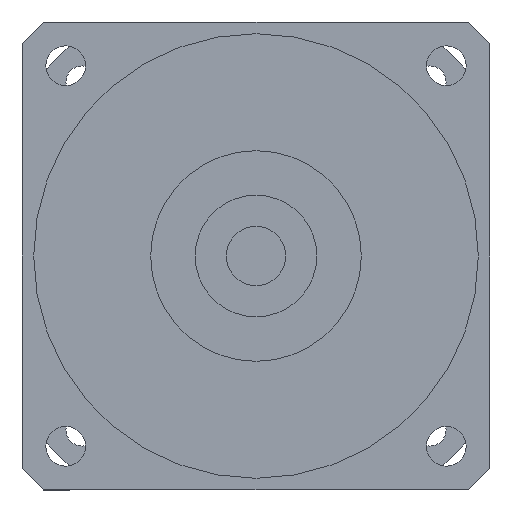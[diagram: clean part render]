
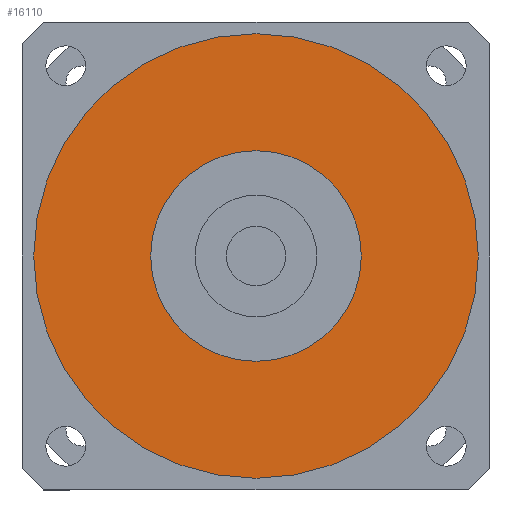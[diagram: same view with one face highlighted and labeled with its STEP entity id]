
A CAD part, left-side view. The second image highlights one B-rep face of the part: STEP entity #16110.
In plain terms, the highlighted planar face has unit normal (-1, 0, 0) as drawn and (0, 0, -1) by its records, which use the part's own axes.
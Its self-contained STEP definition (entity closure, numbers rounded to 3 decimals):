
#15680=CARTESIAN_POINT('',(0.,0.,
-113.5));
#15690=DIRECTION('',(0.,0.,1.));
#15700=DIRECTION('',(-1.,0.,0.));
#15710=AXIS2_PLACEMENT_3D('',#15680,#15690,#15700);
#15720=PLANE('',#15710);
#15730=CARTESIAN_POINT('',(0.,0.,
-113.5));
#15740=DIRECTION('',(0.,0.,1.));
#15750=DIRECTION('',(0.,-1.,0.));
#15760=AXIS2_PLACEMENT_3D('',#15730,#15740,#15750);
#15770=CIRCLE('',#15760,47.5);
#15780=CARTESIAN_POINT('',(0.,-47.5,-113.5));
#15790=VERTEX_POINT('',#15780);
#15800=CARTESIAN_POINT('',(47.5,0.,-113.5));
#15810=VERTEX_POINT('',#15800);
#15820=EDGE_CURVE('',#15790,#15810,#15770,.T.);
#15830=ORIENTED_EDGE('',*,*,#15820,.F.);
#15840=CARTESIAN_POINT('',(-47.5,0.,-113.5));
#15850=VERTEX_POINT('',#15840);
#15860=EDGE_CURVE('',#15810,#15850,#15770,.T.);
#15870=ORIENTED_EDGE('',*,*,#15860,.F.);
#15880=EDGE_CURVE('',#15850,#15790,#15770,.T.);
#15890=ORIENTED_EDGE('',*,*,#15880,.F.);
#15900=EDGE_LOOP('',(#15890,#15870,#15830));
#15910=FACE_OUTER_BOUND('',#15900,.T.);
#15920=CARTESIAN_POINT('',(0.,0.,
-113.5));
#15930=DIRECTION('',(0.,0.,1.));
#15940=DIRECTION('',(0.,-1.,0.));
#15950=AXIS2_PLACEMENT_3D('',#15920,#15930,#15940);
#15960=CIRCLE('',#15950,22.5);
#15970=CARTESIAN_POINT('',(22.5,0.,-113.5));
#15980=VERTEX_POINT('',#15970);
#15990=CARTESIAN_POINT('',(-22.5,0.,-113.5));
#16000=VERTEX_POINT('',#15990);
#16010=EDGE_CURVE('',#15980,#16000,#15960,.T.);
#16020=ORIENTED_EDGE('',*,*,#16010,.T.);
#16030=CARTESIAN_POINT('',(0.,-22.5,-113.5));
#16040=VERTEX_POINT('',#16030);
#16050=EDGE_CURVE('',#16040,#15980,#15960,.T.);
#16060=ORIENTED_EDGE('',*,*,#16050,.T.);
#16070=EDGE_CURVE('',#16000,#16040,#15960,.T.);
#16080=ORIENTED_EDGE('',*,*,#16070,.T.);
#16090=EDGE_LOOP('',(#16080,#16060,#16020));
#16100=FACE_BOUND('',#16090,.T.);
#16110=ADVANCED_FACE('',(#15910,#16100),#15720,.F.);
